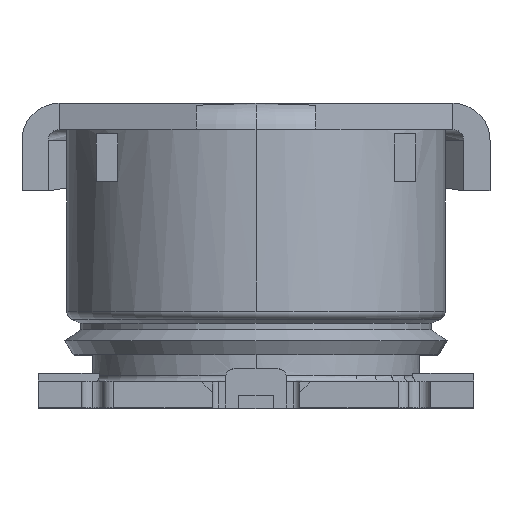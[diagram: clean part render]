
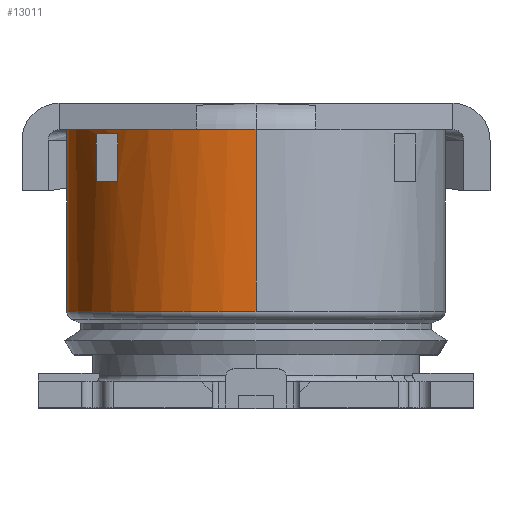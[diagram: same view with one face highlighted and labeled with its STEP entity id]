
A CAD part, top view. The second image highlights one B-rep face of the part: STEP entity #13011.
In plain terms, the highlighted cylindrical face has radius 0.87 mm (diameter 1.74 mm), a partial arc.
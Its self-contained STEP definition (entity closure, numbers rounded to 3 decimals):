
#36 = EDGE_LOOP ( 'NONE', ( #12728, #13370, #12604, #4691 ) ) ;
#134 = EDGE_CURVE ( 'NONE', #8011, #10499, #16652, .T. ) ;
#388 = CARTESIAN_POINT ( 'NONE',  ( -0.635, 0.68, 0.595 ) ) ;
#469 = VERTEX_POINT ( 'NONE', #16553 ) ;
#477 = DIRECTION ( 'NONE',  ( -1., 0., 0. ) ) ;
#602 = ORIENTED_EDGE ( 'NONE', *, *, #7089, .F. ) ;
#1015 = ORIENTED_EDGE ( 'NONE', *, *, #134, .T. ) ;
#1068 = EDGE_CURVE ( 'NONE', #16245, #13560, #1657, .T. ) ;
#1515 = LINE ( 'NONE', #8034, #12321 ) ;
#1657 = B_SPLINE_CURVE_WITH_KNOTS ( 'NONE', 3,
 ( #3678, #11966, #13337, #5050, #11837, #3739, #14405, #13229, #14636, #9155, #2466, #11896, #6509 ),
 .UNSPECIFIED., .F., .F.,
 ( 4, 3, 3, 3, 4 ),
 ( 0., 0., 0., 0., 0. ),
 .UNSPECIFIED. ) ;
#1946 = VECTOR ( 'NONE', #10075, 1000. ) ;
#1950 = DIRECTION ( 'NONE',  ( 0., 1., 0. ) ) ;
#1959 = EDGE_CURVE ( 'NONE', #10818, #8011, #4249, .T. ) ;
#1969 = DIRECTION ( 'NONE',  ( -1., 0., 0. ) ) ;
#2225 = DIRECTION ( 'NONE',  ( 0., 1., 0. ) ) ;
#2230 = CIRCLE ( 'NONE', #16486, 0.87 ) ;
#2466 = CARTESIAN_POINT ( 'NONE',  ( -0.696, 0.486, -0.522 ) ) ;
#3166 = ORIENTED_EDGE ( 'NONE', *, *, #3810, .F. ) ;
#3176 = CARTESIAN_POINT ( 'NONE',  ( -0.735, 1.26, 0.465 ) ) ;
#3223 = VERTEX_POINT ( 'NONE', #16998 ) ;
#3346 = CARTESIAN_POINT ( 'NONE',  ( 0., 0.445, 0. ) ) ;
#3470 = FACE_BOUND ( 'NONE', #36, .T. ) ;
#3480 = CARTESIAN_POINT ( 'NONE',  ( 0., 0.445, 0. ) ) ;
#3621 = CARTESIAN_POINT ( 'NONE',  ( 0., 0.752, 0.87 ) ) ;
#3678 = CARTESIAN_POINT ( 'NONE',  ( -0.677, 0.526, -0.547 ) ) ;
#3739 = CARTESIAN_POINT ( 'NONE',  ( -0.69, 0.51, -0.529 ) ) ;
#3810 = EDGE_CURVE ( 'NONE', #469, #9853, #8838, .T. ) ;
#3893 = ORIENTED_EDGE ( 'NONE', *, *, #1959, .T. ) ;
#4249 = CIRCLE ( 'NONE', #8238, 0.87 ) ;
#4334 = ORIENTED_EDGE ( 'NONE', *, *, #1068, .T. ) ;
#4627 = DIRECTION ( 'NONE',  ( 0., 0., 1. ) ) ;
#4691 = ORIENTED_EDGE ( 'NONE', *, *, #15015, .T. ) ;
#4728 = DIRECTION ( 'NONE',  ( 0., 1., 0. ) ) ;
#4791 = CARTESIAN_POINT ( 'NONE',  ( -0.677, 0.526, -0.547 ) ) ;
#4909 = DIRECTION ( 'NONE',  ( 0., 0., 1. ) ) ;
#5050 = CARTESIAN_POINT ( 'NONE',  ( -0.686, 0.518, -0.536 ) ) ;
#5749 = CARTESIAN_POINT ( 'NONE',  ( -0.696, 0.445, -0.522 ) ) ;
#5804 = EDGE_CURVE ( 'NONE', #13560, #6892, #9199, .T. ) ;
#6101 = DIRECTION ( 'NONE',  ( 0., 1., 0. ) ) ;
#6203 = CARTESIAN_POINT ( 'NONE',  ( 0., 0.752, 0. ) ) ;
#6509 = CARTESIAN_POINT ( 'NONE',  ( -0.696, 0.48, -0.522 ) ) ;
#6612 = CIRCLE ( 'NONE', #12243, 0.87 ) ;
#6679 = CARTESIAN_POINT ( 'NONE',  ( -0.635, 1.26, 0.595 ) ) ;
#6892 = VERTEX_POINT ( 'NONE', #5749 ) ;
#7089 = EDGE_CURVE ( 'NONE', #16245, #469, #15972, .T. ) ;
#7221 = DIRECTION ( 'NONE',  ( 0., 1., 0. ) ) ;
#7225 = CIRCLE ( 'NONE', #14098, 0.87 ) ;
#7935 = VECTOR ( 'NONE', #2225, 1000. ) ;
#7937 = VECTOR ( 'NONE', #8438, 1000. ) ;
#8011 = VERTEX_POINT ( 'NONE', #17318 ) ;
#8034 = CARTESIAN_POINT ( 'NONE',  ( -0.735, 0.68, 0.465 ) ) ;
#8238 = AXIS2_PLACEMENT_3D ( 'NONE', #3346, #1950, #8779 ) ;
#8275 = EDGE_CURVE ( 'NONE', #6892, #10818, #7225, .T. ) ;
#8356 = VERTEX_POINT ( 'NONE', #15829 ) ;
#8413 = CARTESIAN_POINT ( 'NONE',  ( 0., 1.28, 0. ) ) ;
#8438 = DIRECTION ( 'NONE',  ( 0., -1., 0. ) ) ;
#8463 = CARTESIAN_POINT ( 'NONE',  ( 0., 1.28, 0. ) ) ;
#8779 = DIRECTION ( 'NONE',  ( -1., 0., 0. ) ) ;
#8823 = EDGE_CURVE ( 'NONE', #10087, #3223, #15734, .T. ) ;
#8838 = CIRCLE ( 'NONE', #13692, 0.87 ) ;
#8852 = CARTESIAN_POINT ( 'NONE',  ( -0.597, 1.28, 0.633 ) ) ;
#9155 = CARTESIAN_POINT ( 'NONE',  ( -0.696, 0.489, -0.523 ) ) ;
#9199 = LINE ( 'NONE', #10508, #7937 ) ;
#9730 = EDGE_CURVE ( 'NONE', #9853, #10499, #13348, .T. ) ;
#9853 = VERTEX_POINT ( 'NONE', #8852 ) ;
#10003 = ORIENTED_EDGE ( 'NONE', *, *, #8275, .T. ) ;
#10075 = DIRECTION ( 'NONE',  ( 0., -1., 0. ) ) ;
#10087 = VERTEX_POINT ( 'NONE', #6679 ) ;
#10231 = CARTESIAN_POINT ( 'NONE',  ( 0., 1.04, 0. ) ) ;
#10390 = CARTESIAN_POINT ( 'NONE',  ( -0.87, 0.445, 0. ) ) ;
#10499 = VERTEX_POINT ( 'NONE', #16334 ) ;
#10508 = CARTESIAN_POINT ( 'NONE',  ( -0.696, 1.477, -0.522 ) ) ;
#10809 = DIRECTION ( 'NONE',  ( 0., 1., 0. ) ) ;
#10818 = VERTEX_POINT ( 'NONE', #10390 ) ;
#11772 = CARTESIAN_POINT ( 'NONE',  ( -0.677, 0.53, -0.547 ) ) ;
#11837 = CARTESIAN_POINT ( 'NONE',  ( -0.688, 0.514, -0.532 ) ) ;
#11896 = CARTESIAN_POINT ( 'NONE',  ( -0.696, 0.483, -0.522 ) ) ;
#11960 = AXIS2_PLACEMENT_3D ( 'NONE', #8413, #15143, #16492 ) ;
#11966 = CARTESIAN_POINT ( 'NONE',  ( -0.68, 0.524, -0.543 ) ) ;
#12243 = AXIS2_PLACEMENT_3D ( 'NONE', #14674, #15928, #17395 ) ;
#12321 = VECTOR ( 'NONE', #10809, 1000. ) ;
#12604 = ORIENTED_EDGE ( 'NONE', *, *, #15675, .F. ) ;
#12728 = ORIENTED_EDGE ( 'NONE', *, *, #13875, .F. ) ;
#12746 = ORIENTED_EDGE ( 'NONE', *, *, #9730, .F. ) ;
#13011 = ADVANCED_FACE ( 'NONE', ( #3470, #15579 ), #16829, .T. ) ;
#13229 = CARTESIAN_POINT ( 'NONE',  ( -0.694, 0.5, -0.525 ) ) ;
#13337 = CARTESIAN_POINT ( 'NONE',  ( -0.683, 0.521, -0.539 ) ) ;
#13348 = CIRCLE ( 'NONE', #11960, 0.87 ) ;
#13370 = ORIENTED_EDGE ( 'NONE', *, *, #8823, .T. ) ;
#13560 = VERTEX_POINT ( 'NONE', #17341 ) ;
#13692 = AXIS2_PLACEMENT_3D ( 'NONE', #8463, #7221, #477 ) ;
#13875 = EDGE_CURVE ( 'NONE', #10087, #16805, #6612, .T. ) ;
#14098 = AXIS2_PLACEMENT_3D ( 'NONE', #3480, #15468, #1969 ) ;
#14405 = CARTESIAN_POINT ( 'NONE',  ( -0.692, 0.505, -0.527 ) ) ;
#14440 = DIRECTION ( 'NONE',  ( 0., 1., 0. ) ) ;
#14636 = CARTESIAN_POINT ( 'NONE',  ( -0.695, 0.494, -0.523 ) ) ;
#14674 = CARTESIAN_POINT ( 'NONE',  ( 0., 1.26, 0. ) ) ;
#15015 = EDGE_CURVE ( 'NONE', #8356, #16805, #1515, .T. ) ;
#15143 = DIRECTION ( 'NONE',  ( 0., 1., 0. ) ) ;
#15468 = DIRECTION ( 'NONE',  ( 0., 1., 0. ) ) ;
#15579 = FACE_OUTER_BOUND ( 'NONE', #15827, .T. ) ;
#15649 = AXIS2_PLACEMENT_3D ( 'NONE', #6203, #4728, #4909 ) ;
#15675 = EDGE_CURVE ( 'NONE', #8356, #3223, #2230, .T. ) ;
#15734 = LINE ( 'NONE', #388, #1946 ) ;
#15827 = EDGE_LOOP ( 'NONE', ( #10003, #3893, #1015, #12746, #3166, #602, #4334, #16020 ) ) ;
#15829 = CARTESIAN_POINT ( 'NONE',  ( -0.735, 1.04, 0.465 ) ) ;
#15928 = DIRECTION ( 'NONE',  ( 0., -1., 0. ) ) ;
#15972 = LINE ( 'NONE', #11772, #16804 ) ;
#16020 = ORIENTED_EDGE ( 'NONE', *, *, #5804, .T. ) ;
#16245 = VERTEX_POINT ( 'NONE', #4791 ) ;
#16334 = CARTESIAN_POINT ( 'NONE',  ( 0., 1.28, 0.87 ) ) ;
#16486 = AXIS2_PLACEMENT_3D ( 'NONE', #10231, #6101, #4627 ) ;
#16492 = DIRECTION ( 'NONE',  ( -1., 0., 0. ) ) ;
#16553 = CARTESIAN_POINT ( 'NONE',  ( -0.677, 1.28, -0.547 ) ) ;
#16652 = LINE ( 'NONE', #3621, #7935 ) ;
#16804 = VECTOR ( 'NONE', #14440, 1000. ) ;
#16805 = VERTEX_POINT ( 'NONE', #3176 ) ;
#16829 = CYLINDRICAL_SURFACE ( 'NONE', #15649, 0.87 ) ;
#16998 = CARTESIAN_POINT ( 'NONE',  ( -0.635, 1.04, 0.595 ) ) ;
#17318 = CARTESIAN_POINT ( 'NONE',  ( 0., 0.445, 0.87 ) ) ;
#17341 = CARTESIAN_POINT ( 'NONE',  ( -0.696, 0.48, -0.522 ) ) ;
#17395 = DIRECTION ( 'NONE',  ( -1., 0., 0. ) ) ;
